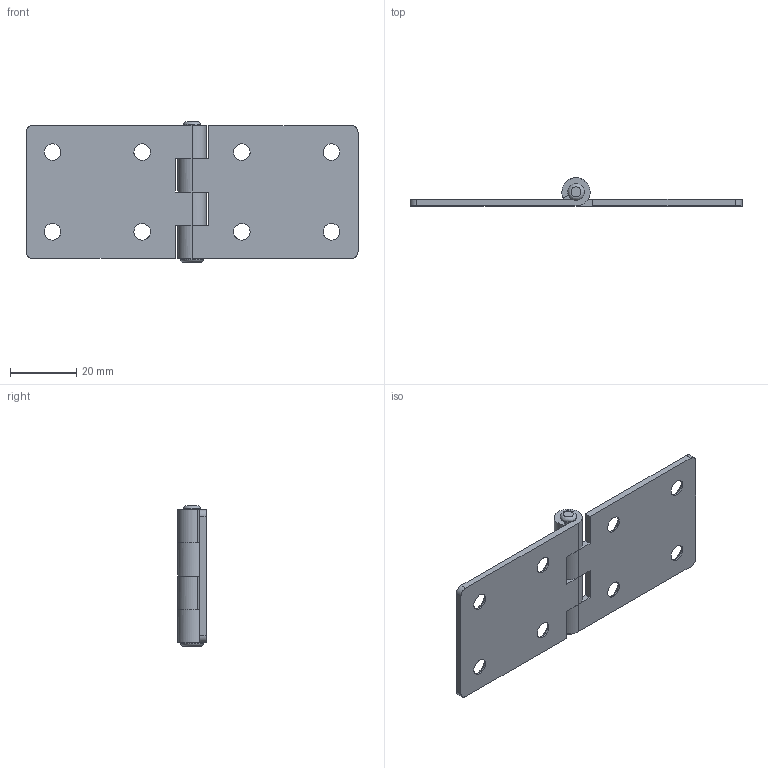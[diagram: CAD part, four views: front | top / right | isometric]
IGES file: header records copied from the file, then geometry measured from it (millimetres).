
Global section: file name: DR_HH40100-20; native system: Autodesk Inventor 2015; preprocessor: unknown; author: user; date: 20170816.163309; units: millimetre
Bounding box: 100 x 8.5 x 42.4 mm (x, y, z)
Volume: 9145.9 mm3; surface area: 10479.3 mm2
Topology: 3 solids, 3 shells, 61 faces, 175 edges, 122 vertices
Faces by surface type: bspline 61
